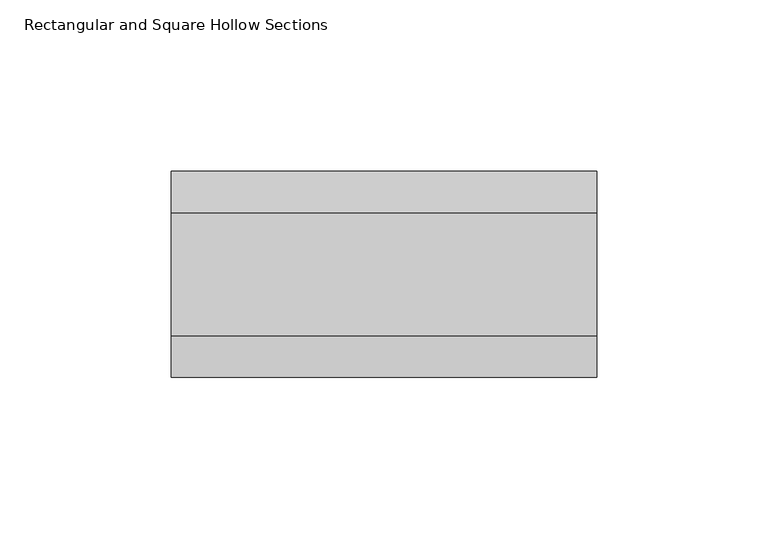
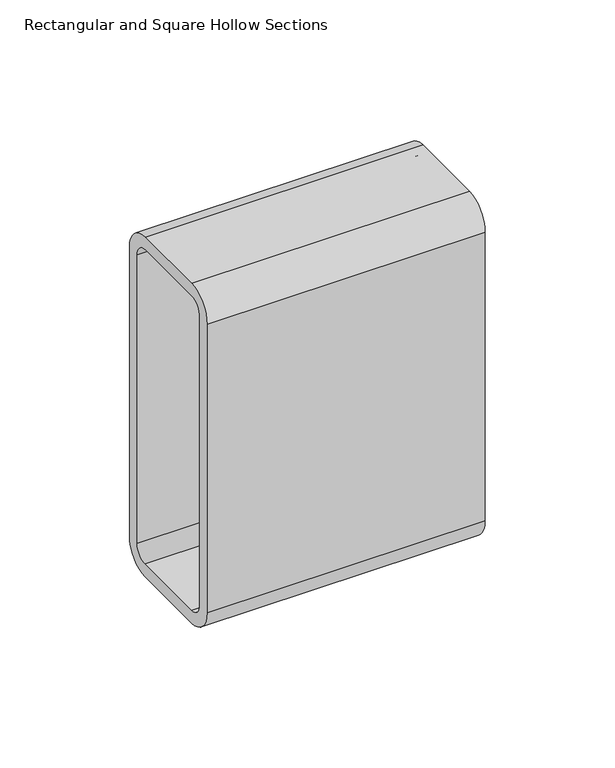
"""IFC4 building model written with IfcOpenShell, lengths in millimetres: beam geometry, Rectangular and Square Hollow Sections : TREC160x60x6."""

from ifc_helpers import new_model, si_unit, point, frame, frame_2d, origin, place, context, project, spatial, polyline, circle_curve, trimmed, segment, composite_curve, outline, extrude, source, transform, mapped, element, save


def rectangular_and_square_hollow_sections_b0ba7d90(model_context):
    return source(origin(), model_context, "Body", "SweptSolid", [
        extrude(outline(composite_curve([segment(polyline([(30.0, 68.0), (30.0, -68.0)]), True, "CONTINUOUS"), segment(trimmed(circle_curve(frame_2d((18.0, -68.0)), 12.0), [point((30.0, -68.0))], [point((18.0, -80.0))], False, "CARTESIAN"), True, "CONTINUOUS"), segment(polyline([(18.0, -80.0), (-18.0, -80.0)]), True, "CONTINUOUS"), segment(trimmed(circle_curve(frame_2d((-18.0, -68.0)), 12.0), [point((-18.0, -80.0))], [point((-30.0, -68.0))], False, "CARTESIAN"), True, "CONTINUOUS"), segment(polyline([(-30.0, -68.0), (-30.0, 68.0)]), True, "CONTINUOUS"), segment(trimmed(circle_curve(frame_2d((-18.0, 68.0)), 12.0), [point((-30.0, 68.0))], [point((-18.0, 80.0))], False, "CARTESIAN"), True, "CONTINUOUS"), segment(polyline([(-18.0, 80.0), (18.0, 80.0)]), True, "CONTINUOUS"), segment(trimmed(circle_curve(frame_2d((18.0, 68.0)), 12.0), [point((18.0, 80.0))], [point((30.0, 68.0))], False, "CARTESIAN"), True, "CONTINUOUS")], self_intersect=False), holes=[composite_curve([segment(trimmed(circle_curve(frame_2d((-18.0, 68.0)), 6.0), [point((-18.0, 74.0))], [point((-24.0, 68.0))], True, "CARTESIAN"), True, "CONTINUOUS"), segment(polyline([(-24.0, 68.0), (-24.0, -68.0)]), True, "CONTINUOUS"), segment(trimmed(circle_curve(frame_2d((-18.0, -68.0)), 6.0), [point((-24.0, -68.0))], [point((-18.0, -74.0))], True, "CARTESIAN"), True, "CONTINUOUS"), segment(polyline([(-18.0, -74.0), (18.0, -74.0)]), True, "CONTINUOUS"), segment(trimmed(circle_curve(frame_2d((18.0, -68.0)), 6.0), [point((18.0, -74.0))], [point((24.0, -68.0))], True, "CARTESIAN"), True, "CONTINUOUS"), segment(polyline([(24.0, -68.0), (24.0, 68.0)]), True, "CONTINUOUS"), segment(trimmed(circle_curve(frame_2d((18.0, 68.0)), 6.0), [point((24.0, 68.0))], [point((18.0, 74.0))], True, "CARTESIAN"), True, "CONTINUOUS"), segment(polyline([(18.0, 74.0), (-18.0, 74.0)]), True, "CONTINUOUS")], self_intersect=False)]), frame((-62.0, 0.0, 0.0), z_axis=(1.0, 0.0, 0.0), x_axis=(0.0, 1.0, 0.0)), (0.0, 0.0, 1.0), 124.0),
    ])


if __name__ == "__main__":
    model = new_model("IFC4")
    model_context = context("Model", 3, world=origin())
    ifc_project = project(units=[si_unit("LENGTHUNIT", "METRE", prefix="MILLI")], contexts=[model_context])
    site = spatial("IfcSite", under=ifc_project)
    building = spatial("IfcBuilding", under=site)
    placement = place(None, origin())
    rectangular_and_square_hollow_sections_shape = rectangular_and_square_hollow_sections_b0ba7d90(model_context)
    element("IfcBeam", 1, ObjectType="Rectangular and Square Hollow Sections : TREC160x60x6", at=placement, inside=building, context=model_context, shape_type="MappedRepresentation", body=[
        mapped(rectangular_and_square_hollow_sections_shape, transform((0.0, 0.0, 0.0), x_axis=(1.0, 0.0, 0.0), y_axis=(0.0, 1.0, 0.0), z_axis=(0.0, 0.0, 1.0))),
    ])
    save(model, "model.ifc")
